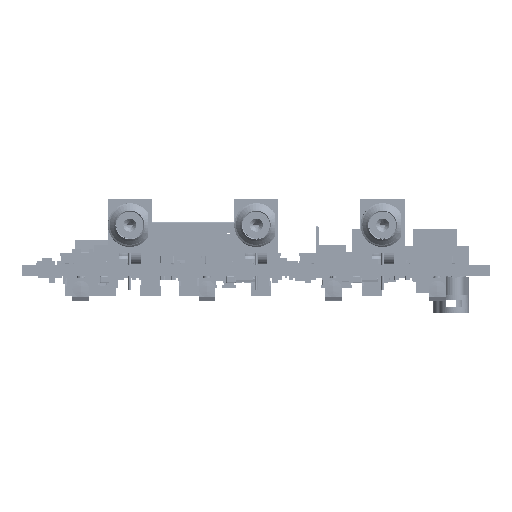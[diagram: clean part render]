
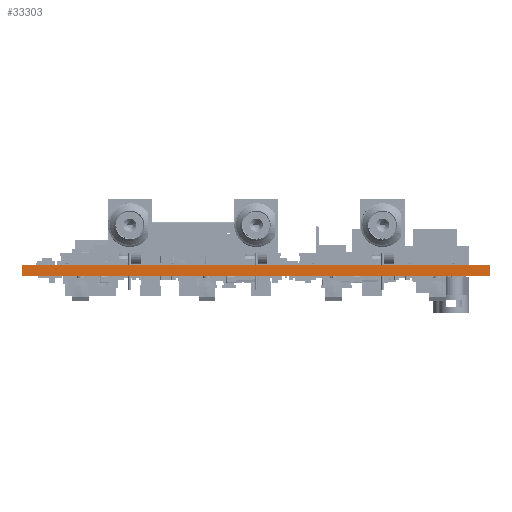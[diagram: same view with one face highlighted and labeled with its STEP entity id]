
A CAD part, left-side view. The second image highlights one B-rep face of the part: STEP entity #33303.
In plain terms, the highlighted planar face has unit normal (-1, 0, 0).
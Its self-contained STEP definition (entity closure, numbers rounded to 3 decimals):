
#33303=ADVANCED_FACE('',(#58178),#58179,.F.);
#58178=FACE_OUTER_BOUND('',#88683,.T.);
#58179=PLANE('',#88684);
#88683=EDGE_LOOP('',(#132785,#132786,#132787,#132788));
#88684=AXIS2_PLACEMENT_3D('',#132789,#132790,#132791);
#132785=ORIENTED_EDGE('',*,*,#150975,.T.);
#132786=ORIENTED_EDGE('',*,*,#151007,.T.);
#132787=ORIENTED_EDGE('',*,*,#150990,.F.);
#132788=ORIENTED_EDGE('',*,*,#151005,.F.);
#132789=CARTESIAN_POINT('',(-3.56,-5.55,0.0));
#132790=DIRECTION('',(1.0,0.,0.0));
#132791=DIRECTION('',(0.0,0.0,-1.0));
#150975=EDGE_CURVE('',#174744,#174742,#174745,.T.);
#150990=EDGE_CURVE('',#174771,#174773,#174774,.T.);
#151005=EDGE_CURVE('',#174744,#174771,#174790,.T.);
#151007=EDGE_CURVE('',#174742,#174773,#174792,.T.);
#174742=VERTEX_POINT('',#215564);
#174744=VERTEX_POINT('',#215567);
#174745=LINE('',#215568,#215569);
#174771=VERTEX_POINT('',#215603);
#174773=VERTEX_POINT('',#215606);
#174774=LINE('',#215607,#215608);
#174790=LINE('',#215632,#215633);
#174792=LINE('',#215635,#215636);
#215564=CARTESIAN_POINT('',(-3.56,94.45,2.406));
#215567=CARTESIAN_POINT('',(-3.56,-5.55,2.406));
#215568=CARTESIAN_POINT('',(-3.56,44.45,2.406));
#215569=VECTOR('',#230812,1.0);
#215603=CARTESIAN_POINT('',(-3.56,-5.55,0.0));
#215606=CARTESIAN_POINT('',(-3.56,94.45,0.0));
#215607=CARTESIAN_POINT('',(-3.56,-5.55,0.0));
#215608=VECTOR('',#230834,1.0);
#215632=CARTESIAN_POINT('',(-3.56,-5.55,1.203));
#215633=VECTOR('',#230843,1.0);
#215635=CARTESIAN_POINT('',(-3.56,94.45,1.203));
#215636=VECTOR('',#230844,1.0);
#230812=DIRECTION('',(0.,1.0,0.0));
#230834=DIRECTION('',(0.,1.0,0.0));
#230843=DIRECTION('',(-0.0,-0.0,-1.0));
#230844=DIRECTION('',(-0.0,-0.0,-1.0));
